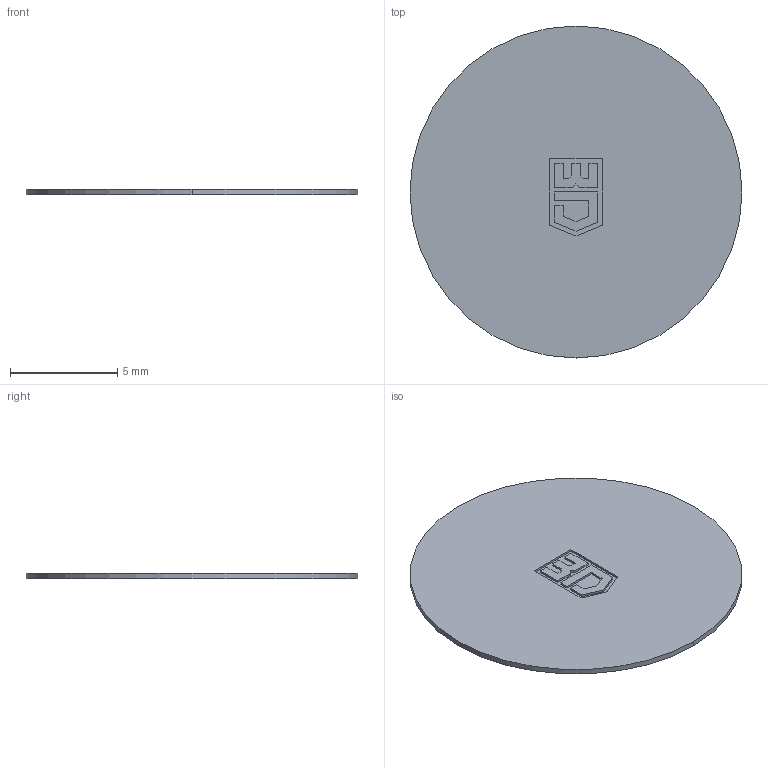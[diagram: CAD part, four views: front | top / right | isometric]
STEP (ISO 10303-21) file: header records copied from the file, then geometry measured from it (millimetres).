
FILE_DESCRIPTION (( 'STEP AP203' ), '1' );
FILE_NAME ('M16 S-B.STEP', '2007-02-21T07:26:31', ( ' ' ), ( '' ), 'SwSTEP 2.0', 'SolidWorks 2005278', '' );
FILE_SCHEMA (( 'CONFIG_CONTROL_DESIGN' ));
Length unit declared in the file: millimetre
Products named in the file (1): M16 S-B
Bounding box: 15.5 x 15.5 x 0.25 mm (x, y, z)
Volume: 46.7 mm3; surface area: 392.7 mm2
Topology: 1 solids, 1 shells, 41 faces, 108 edges, 72 vertices
Faces by surface type: plane 39, cylinder 2
Entity records: 1323 total; most frequent: CARTESIAN_POINT 222, ORIENTED_EDGE 216, DIRECTION 196, EDGE_CURVE 108, VECTOR 104, LINE 104, VERTEX_POINT 72, AXIS2_PLACEMENT_3D 46
